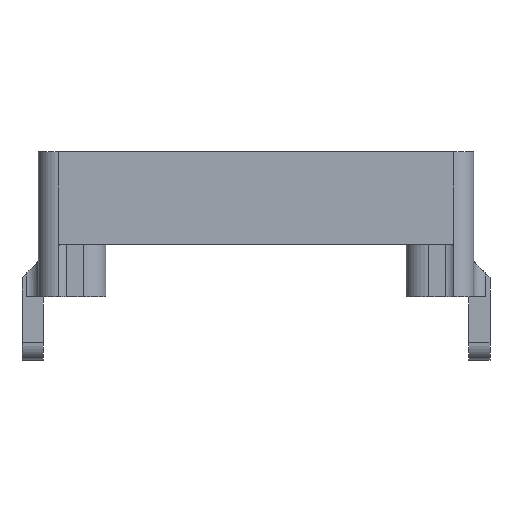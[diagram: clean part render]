
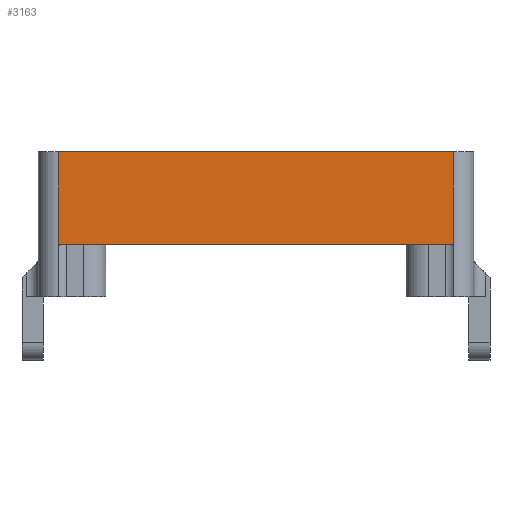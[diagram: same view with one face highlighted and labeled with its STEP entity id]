
A CAD part, left-side view. The second image highlights one B-rep face of the part: STEP entity #3163.
In plain terms, the highlighted planar face has unit normal (-1, 0, 0).
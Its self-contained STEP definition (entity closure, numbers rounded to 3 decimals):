
#192=PLANE('',#3495);
#343=FACE_OUTER_BOUND('',#564,.T.);
#564=EDGE_LOOP('',(#2857,#2858,#2859,#2860,#2861,#2862));
#591=LINE('',#4444,#856);
#743=LINE('',#6044,#1008);
#760=LINE('',#6083,#1025);
#777=LINE('',#6120,#1042);
#856=VECTOR('',#3540,10.);
#1008=VECTOR('',#4092,10.);
#1025=VECTOR('',#4125,10.);
#1042=VECTOR('',#4150,10.);
#1114=CIRCLE('',#3198,0.5);
#1116=CIRCLE('',#3202,0.5);
#1268=VERTEX_POINT('',#4422);
#1269=VERTEX_POINT('',#4424);
#1274=VERTEX_POINT('',#4437);
#1275=VERTEX_POINT('',#4439);
#1486=VERTEX_POINT('',#6038);
#1502=VERTEX_POINT('',#6082);
#1562=EDGE_CURVE('',#1269,#1268,#1114,.F.);
#1569=EDGE_CURVE('',#1275,#1274,#1116,.F.);
#1572=EDGE_CURVE('',#1268,#1275,#591,.T.);
#1872=EDGE_CURVE('',#1269,#1486,#743,.T.);
#1894=EDGE_CURVE('',#1486,#1502,#760,.T.);
#1914=EDGE_CURVE('',#1502,#1274,#777,.T.);
#2857=ORIENTED_EDGE('',*,*,#1872,.F.);
#2858=ORIENTED_EDGE('',*,*,#1562,.T.);
#2859=ORIENTED_EDGE('',*,*,#1572,.T.);
#2860=ORIENTED_EDGE('',*,*,#1569,.T.);
#2861=ORIENTED_EDGE('',*,*,#1914,.F.);
#2862=ORIENTED_EDGE('',*,*,#1894,.F.);
#3163=ADVANCED_FACE('',(#343),#192,.T.);
#3198=AXIS2_PLACEMENT_3D('',#4425,#3521,#3522);
#3202=AXIS2_PLACEMENT_3D('',#4440,#3534,#3535);
#3495=AXIS2_PLACEMENT_3D('',#6290,#4360,#4361);
#3521=DIRECTION('center_axis',(-1.,0.,0.));
#3522=DIRECTION('ref_axis',(0.,0.707,0.707));
#3534=DIRECTION('center_axis',(-1.,0.,0.));
#3535=DIRECTION('ref_axis',(0.,-0.707,0.707));
#3540=DIRECTION('',(0.,-1.,0.));
#4092=DIRECTION('',(0.,0.,1.));
#4125=DIRECTION('',(0.,-1.,0.));
#4150=DIRECTION('',(0.,0.,-1.));
#4360=DIRECTION('center_axis',(-1.,0.,0.));
#4361=DIRECTION('ref_axis',(0.,-1.,0.));
#4422=CARTESIAN_POINT('',(-49.4,27.5,28.1));
#4424=CARTESIAN_POINT('',(-49.4,28.,27.6));
#4425=CARTESIAN_POINT('Origin',(-49.4,27.5,27.6));
#4437=CARTESIAN_POINT('',(-49.4,-28.,27.6));
#4439=CARTESIAN_POINT('',(-49.4,-27.5,28.1));
#4440=CARTESIAN_POINT('Origin',(-49.4,-27.5,27.6));
#4444=CARTESIAN_POINT('',(-49.4,29.45,28.1));
#6038=CARTESIAN_POINT('',(-49.4,28.,41.2));
#6044=CARTESIAN_POINT('',(-49.4,28.,20.6));
#6082=CARTESIAN_POINT('',(-49.4,-28.,41.2));
#6083=CARTESIAN_POINT('',(-49.4,30.9,41.2));
#6120=CARTESIAN_POINT('',(-49.4,-28.,24.35));
#6290=CARTESIAN_POINT('Origin',(-49.4,30.9,20.6));
